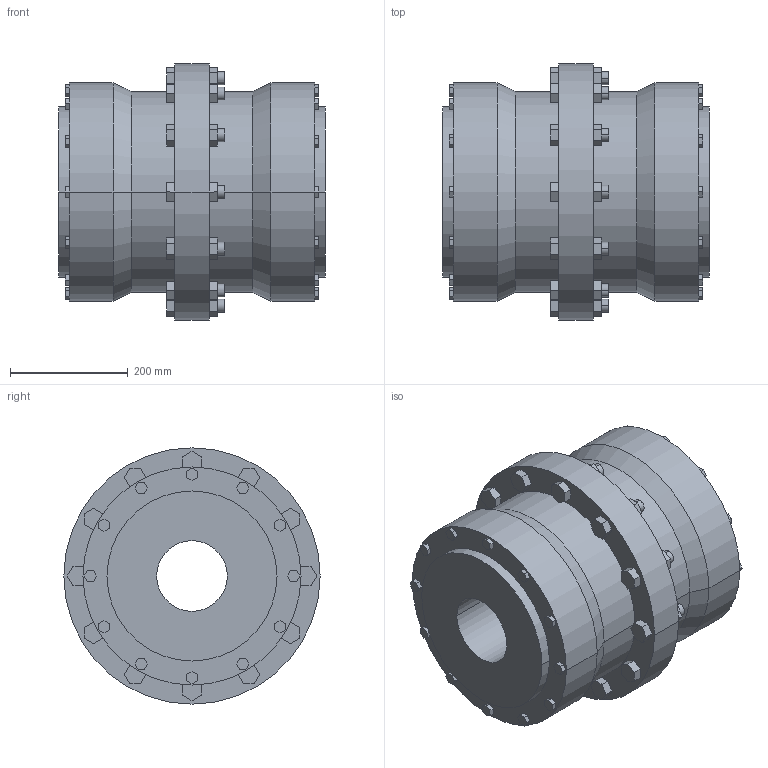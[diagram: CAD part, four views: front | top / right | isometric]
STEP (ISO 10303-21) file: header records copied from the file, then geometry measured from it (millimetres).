
FILE_DESCRIPTION((''),'2;1');
FILE_NAME('A18980500-0_ASM','2018-09-26T',('AB_Roschiwal'),('RENK AG'),'PRO/ENGINEER BY PARAMETRIC TECHNOLOGY CORPORATION, 2015440','PRO/ENGINEER BY PARAMETRIC TECHNOLOGY CORPORATION, 2015440','');
FILE_SCHEMA(('CONFIG_CONTROL_DESIGN'));
Length unit declared in the file: millimetre
Products named in the file (3): SBK180_GEHAEUSE; SBK180_NABE; A18980500-0_ASM
Assembly tree (3 placements, depth 2):
  A18980500-0_ASM
    SBK180_GEHAEUSE
    SBK180_NABE  x2
Bounding box: 452 x 435 x 435 mm (x, y, z)
Volume: 39038805.6 mm3; surface area: 1981960.8 mm2
Topology: 3 solids, 3 shells, 422 faces, 1036 edges, 688 vertices
Faces by surface type: plane 362, cylinder 56, cone 4
Entity records: 12052 total; most frequent: CARTESIAN_POINT 2100, ORIENTED_EDGE 2024, DIRECTION 1940, EDGE_CURVE 1012, VECTOR 916, LINE 916, VERTEX_POINT 672, AXIS2_PLACEMENT_3D 512
